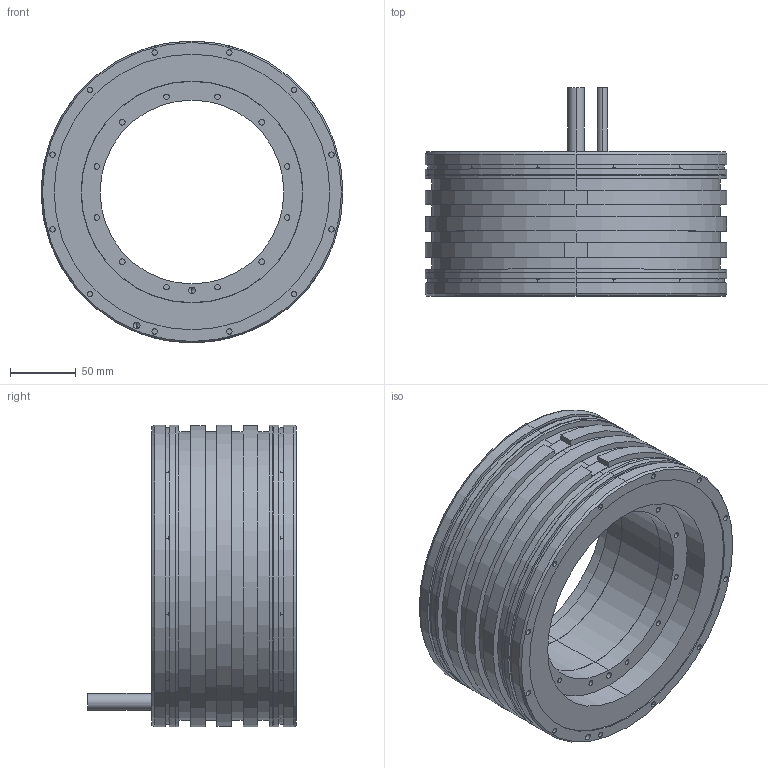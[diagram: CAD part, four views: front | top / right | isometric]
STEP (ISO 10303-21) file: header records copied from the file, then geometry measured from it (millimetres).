
FILE_DESCRIPTION (( 'STEP AP203' ), '1' );
FILE_NAME ('TM-2-47.STEP', '2020-10-20T05:44:54', ( '' ), ( '' ), 'SwSTEP 2.0', 'SolidWorks 2015', '' );
FILE_SCHEMA (( 'CONFIG_CONTROL_DESIGN' ));
Length unit declared in the file: millimetre
Products named in the file (3): TM-2-47; TM-2-4X_stator_TM-2-47_stator; TM-2-4X_rotor_TM-2-47_rotor
Assembly tree (2 placements, depth 2):
  TM-2-47
    TM-2-4X_stator_TM-2-47_stator
    TM-2-4X_rotor_TM-2-47_rotor
Bounding box: 230 x 159 x 230 mm (x, y, z)
Volume: 2416399.7 mm3; surface area: 301187.8 mm2
Topology: 2 solids, 2 shells, 246 faces, 514 edges, 328 vertices
Faces by surface type: cylinder 151, plane 79, cone 16
Entity records: 6925 total; most frequent: DIRECTION 1314, CARTESIAN_POINT 1085, ORIENTED_EDGE 1012, AXIS2_PLACEMENT_3D 557, EDGE_CURVE 506, VERTEX_POINT 328, EDGE_LOOP 314, CIRCLE 306
